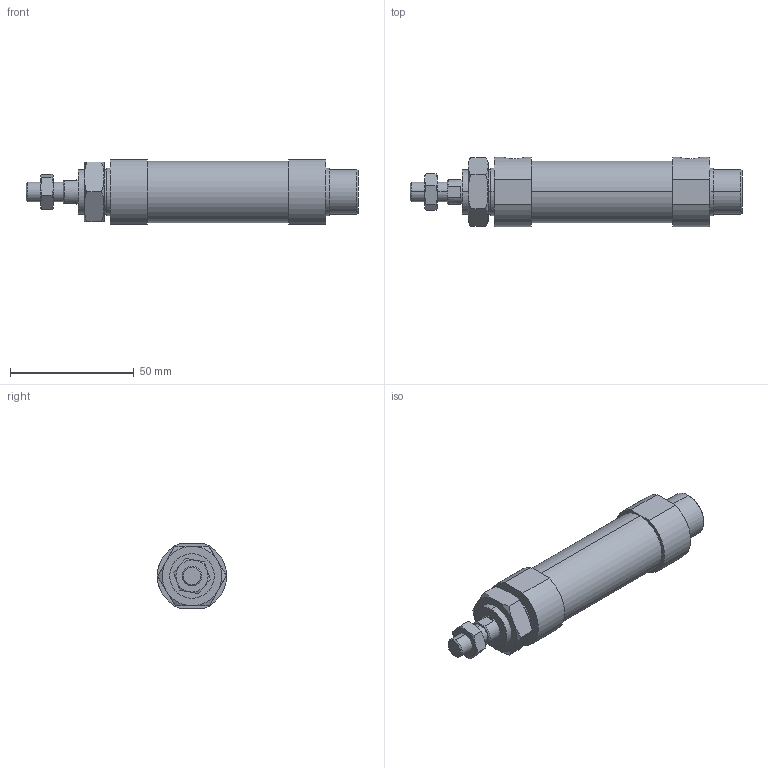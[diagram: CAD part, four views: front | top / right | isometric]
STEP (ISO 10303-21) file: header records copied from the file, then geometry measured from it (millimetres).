
FILE_DESCRIPTION (( 'STEP AP203' ), '1' );
FILE_NAME ('J#2-20-25-N.STEP', '2016-03-08T06:55:48', ( '' ), ( '' ), 'SwSTEP 2.0', 'SolidWorks 2014', '' );
FILE_SCHEMA (( 'CONFIG_CONTROL_DESIGN' ));
Length unit declared in the file: millimetre
Products named in the file (4): J#2-20-25; J#2-20-25-N
Assembly tree (3 placements, depth 2):
  J#2-20-25-N
    J#2-20-25
    (unnamed)
    (unnamed)
Bounding box: 134 x 28 x 26 mm (x, y, z)
Volume: 55208.6 mm3; surface area: 13405.4 mm2
Topology: 3 solids, 3 shells, 92 faces, 198 edges, 122 vertices
Faces by surface type: plane 36, cylinder 26, torus 24, cone 6
Entity records: 3250 total; most frequent: CARTESIAN_POINT 874, DIRECTION 420, ORIENTED_EDGE 396, EDGE_CURVE 198, AXIS2_PLACEMENT_3D 180, VERTEX_POINT 122, EDGE_LOOP 106, FACE_OUTER_BOUND 92
